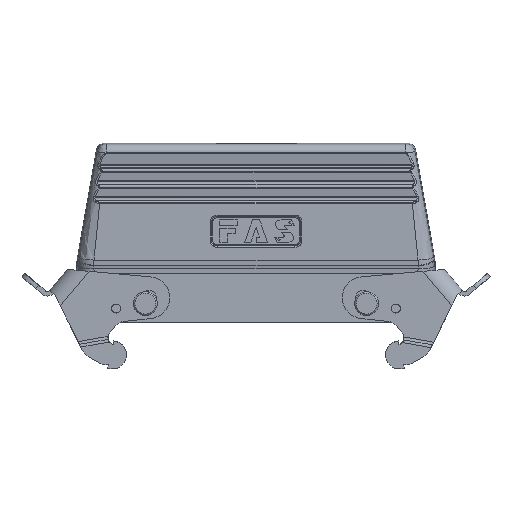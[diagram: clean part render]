
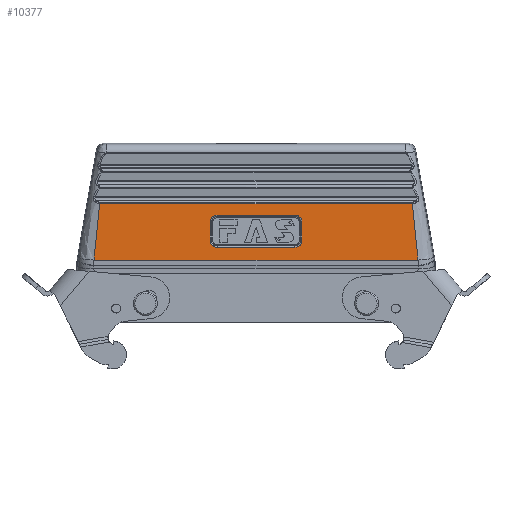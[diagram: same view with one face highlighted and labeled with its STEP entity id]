
A CAD part, front view. The second image highlights one B-rep face of the part: STEP entity #10377.
In plain terms, the highlighted planar face has unit normal (0, -1, 0).
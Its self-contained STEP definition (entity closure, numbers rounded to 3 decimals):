
#687 =( BOUNDED_CURVE ( )  B_SPLINE_CURVE ( 3, ( #8384, #25704, #12794, #12617 ),
 .UNSPECIFIED., .F., .F. ) 
 B_SPLINE_CURVE_WITH_KNOTS ( ( 4, 4 ),
 ( 0., 1. ),
 .UNSPECIFIED. ) 
 CURVE ( )  GEOMETRIC_REPRESENTATION_ITEM ( )  RATIONAL_B_SPLINE_CURVE ( ( 1., 0.805, 0.805, 1. ) ) 
 REPRESENTATION_ITEM ( '' )  );
#788 = DIRECTION ( 'NONE',  ( 0., 0., 1. ) ) ;
#821 = VECTOR ( 'NONE', #6983, 1000. ) ;
#933 = CARTESIAN_POINT ( 'NONE',  ( -54.009, -22., 24.029 ) ) ;
#1009 = EDGE_CURVE ( 'NONE', #20584, #27660, #26065, .T. ) ;
#1347 = CARTESIAN_POINT ( 'NONE',  ( -15.366, -22., 33.5 ) ) ;
#1361 = LINE ( 'NONE', #7970, #21996 ) ;
#2161 = CARTESIAN_POINT ( 'NONE',  ( -14.386, -22., 25.134 ) ) ;
#2243 = LINE ( 'NONE', #19750, #9818 ) ;
#2750 = CARTESIAN_POINT ( 'NONE',  ( 0., -22., 39.758 ) ) ;
#2907 = CARTESIAN_POINT ( 'NONE',  ( 13., -22., 35.866 ) ) ;
#3000 = CARTESIAN_POINT ( 'NONE',  ( 15.366, -22., 27.5 ) ) ;
#3286 = ORIENTED_EDGE ( 'NONE', *, *, #9996, .F. ) ;
#3809 = CARTESIAN_POINT ( 'NONE',  ( 52.708, -22., 36.619 ) ) ;
#4295 = VECTOR ( 'NONE', #10407, 1000. ) ;
#4788 = ORIENTED_EDGE ( 'NONE', *, *, #22662, .F. ) ;
#4971 = VERTEX_POINT ( 'NONE', #11099 ) ;
#5110 = VECTOR ( 'NONE', #7469, 1000. ) ;
#5383 = VERTEX_POINT ( 'NONE', #3000 ) ;
#5724 = ORIENTED_EDGE ( 'NONE', *, *, #9756, .F. ) ;
#5965 = CARTESIAN_POINT ( 'NONE',  ( -240.598, -22., 20.875 ) ) ;
#6951 = ORIENTED_EDGE ( 'NONE', *, *, #21277, .F. ) ;
#6983 = DIRECTION ( 'NONE',  ( 1., 0., 0. ) ) ;
#7175 = LINE ( 'NONE', #16324, #5110 ) ;
#7310 = DIRECTION ( 'NONE',  ( 0., 1., 0. ) ) ;
#7469 = DIRECTION ( 'NONE',  ( 0., 0., -1. ) ) ;
#7970 = CARTESIAN_POINT ( 'NONE',  ( 0., -22., 35.866 ) ) ;
#8029 = CARTESIAN_POINT ( 'NONE',  ( 54.172, -22., 20.875 ) ) ;
#8257 = CARTESIAN_POINT ( 'NONE',  ( 15.366, -22., 33.5 ) ) ;
#8384 = CARTESIAN_POINT ( 'NONE',  ( 13., -22., 25.134 ) ) ;
#8415 = CARTESIAN_POINT ( 'NONE',  ( -13., -22., 25.134 ) ) ;
#9440 = ORIENTED_EDGE ( 'NONE', *, *, #10520, .F. ) ;
#9756 = EDGE_CURVE ( 'NONE', #26555, #28097, #27688, .T. ) ;
#9818 = VECTOR ( 'NONE', #13829, 1000. ) ;
#9996 = EDGE_CURVE ( 'NONE', #14365, #4971, #2243, .T. ) ;
#10291 = CARTESIAN_POINT ( 'NONE',  ( -13., -22., 35.866 ) ) ;
#10377 = ADVANCED_FACE ( 'NONE', ( #21503, #19095 ), #16357, .F. ) ;
#10407 = DIRECTION ( 'NONE',  ( -1., 0., 0. ) ) ;
#10520 = EDGE_CURVE ( 'NONE', #25501, #26555, #18381, .T. ) ;
#10774 = EDGE_CURVE ( 'NONE', #28097, #15433, #21825, .T. ) ;
#10913 = CARTESIAN_POINT ( 'NONE',  ( -13., -22., 25.134 ) ) ;
#11099 = CARTESIAN_POINT ( 'NONE',  ( 13., -22., 25.134 ) ) ;
#11885 = CARTESIAN_POINT ( 'NONE',  ( -54.172, -22., 20.875 ) ) ;
#12062 = CARTESIAN_POINT ( 'NONE',  ( 14.386, -22., 35.866 ) ) ;
#12274 = CARTESIAN_POINT ( 'NONE',  ( 53.748, -22., 27.182 ) ) ;
#12405 = CARTESIAN_POINT ( 'NONE',  ( -14.386, -22., 35.866 ) ) ;
#12554 = CARTESIAN_POINT ( 'NONE',  ( 54.01, -22., 24.029 ) ) ;
#12605 = ORIENTED_EDGE ( 'NONE', *, *, #13584, .F. ) ;
#12617 = CARTESIAN_POINT ( 'NONE',  ( 15.366, -22., 27.5 ) ) ;
#12794 = CARTESIAN_POINT ( 'NONE',  ( 15.366, -22., 26.114 ) ) ;
#12809 = CARTESIAN_POINT ( 'NONE',  ( 52.292, -22., 39.758 ) ) ;
#13240 = EDGE_CURVE ( 'NONE', #15433, #25501, #22492, .T. ) ;
#13339 = LINE ( 'NONE', #27925, #27128 ) ;
#13342 = EDGE_CURVE ( 'NONE', #16709, #14365, #18526, .T. ) ;
#13584 = EDGE_CURVE ( 'NONE', #16359, #15254, #17286, .T. ) ;
#13829 = DIRECTION ( 'NONE',  ( 1., 0., 0. ) ) ;
#14365 = VERTEX_POINT ( 'NONE', #10913 ) ;
#15185 = EDGE_LOOP ( 'NONE', ( #9440, #24791, #18902, #5724 ) ) ;
#15254 = VERTEX_POINT ( 'NONE', #25443 ) ;
#15322 = CARTESIAN_POINT ( 'NONE',  ( -15.366, -22., 27.5 ) ) ;
#15433 = VERTEX_POINT ( 'NONE', #12809 ) ;
#16084 = CARTESIAN_POINT ( 'NONE',  ( 15.366, -22., 34.886 ) ) ;
#16324 = CARTESIAN_POINT ( 'NONE',  ( -15.366, -22., 0. ) ) ;
#16357 = PLANE ( 'NONE',  #26765 ) ;
#16359 = VERTEX_POINT ( 'NONE', #28341 ) ;
#16709 = VERTEX_POINT ( 'NONE', #22061 ) ;
#16945 = DIRECTION ( 'NONE',  ( 0., 0., 1. ) ) ;
#17014 = CARTESIAN_POINT ( 'NONE',  ( -15.366, -22., 34.886 ) ) ;
#17286 =( BOUNDED_CURVE ( )  B_SPLINE_CURVE ( 3, ( #10291, #12405, #17014, #1347 ),
 .UNSPECIFIED., .F., .T. ) 
 B_SPLINE_CURVE_WITH_KNOTS ( ( 4, 4 ),
 ( 0., 1. ),
 .UNSPECIFIED. ) 
 CURVE ( )  GEOMETRIC_REPRESENTATION_ITEM ( )  RATIONAL_B_SPLINE_CURVE ( ( 1., 0.805, 0.805, 1. ) ) 
 REPRESENTATION_ITEM ( '' )  );
#17312 = EDGE_LOOP ( 'NONE', ( #23626, #3286, #27108, #22328, #12605, #4788, #20846, #6951 ) ) ;
#17669 = CARTESIAN_POINT ( 'NONE',  ( 54.172, -22., 20.875 ) ) ;
#17869 = CARTESIAN_POINT ( 'NONE',  ( 13., -22., 35.866 ) ) ;
#18381 = LINE ( 'NONE', #5965, #4295 ) ;
#18526 =( BOUNDED_CURVE ( )  B_SPLINE_CURVE ( 3, ( #15322, #21791, #2161, #8415 ),
 .UNSPECIFIED., .F., .T. ) 
 B_SPLINE_CURVE_WITH_KNOTS ( ( 4, 4 ),
 ( 0., 1. ),
 .UNSPECIFIED. ) 
 CURVE ( )  GEOMETRIC_REPRESENTATION_ITEM ( )  RATIONAL_B_SPLINE_CURVE ( ( 1., 0.805, 0.805, 1. ) ) 
 REPRESENTATION_ITEM ( '' )  );
#18562 = CARTESIAN_POINT ( 'NONE',  ( -54.172, -22., 20.875 ) ) ;
#18718 = CARTESIAN_POINT ( 'NONE',  ( -52.707, -22., 36.619 ) ) ;
#18902 = ORIENTED_EDGE ( 'NONE', *, *, #10774, .F. ) ;
#18906 = CARTESIAN_POINT ( 'NONE',  ( -52.292, -22., 39.758 ) ) ;
#19095 = FACE_OUTER_BOUND ( 'NONE', #15185, .T. ) ;
#19750 = CARTESIAN_POINT ( 'NONE',  ( 0., -22., 25.134 ) ) ;
#20584 = VERTEX_POINT ( 'NONE', #8257 ) ;
#20624 = CARTESIAN_POINT ( 'NONE',  ( 15.366, -22., 33.5 ) ) ;
#20846 = ORIENTED_EDGE ( 'NONE', *, *, #1009, .F. ) ;
#21036 = CARTESIAN_POINT ( 'NONE',  ( -53.748, -22., 27.183 ) ) ;
#21134 = CARTESIAN_POINT ( 'NONE',  ( 53.097, -22., 33.477 ) ) ;
#21277 = EDGE_CURVE ( 'NONE', #5383, #20584, #13339, .T. ) ;
#21503 = FACE_BOUND ( 'NONE', #17312, .T. ) ;
#21588 = EDGE_CURVE ( 'NONE', #15254, #16709, #7175, .T. ) ;
#21791 = CARTESIAN_POINT ( 'NONE',  ( -15.366, -22., 26.114 ) ) ;
#21825 = LINE ( 'NONE', #2750, #821 ) ;
#21996 = VECTOR ( 'NONE', #28183, 1000. ) ;
#22061 = CARTESIAN_POINT ( 'NONE',  ( -15.366, -22., 27.5 ) ) ;
#22328 = ORIENTED_EDGE ( 'NONE', *, *, #21588, .F. ) ;
#22492 = B_SPLINE_CURVE_WITH_KNOTS ( 'NONE', 3,
 ( #25832, #3809, #21134, #12274, #12554, #8029 ),
 .UNSPECIFIED., .F., .F.,
 ( 4, 2, 4 ),
 ( 0., 0.5, 1. ),
 .UNSPECIFIED. ) ;
#22662 = EDGE_CURVE ( 'NONE', #27660, #16359, #1361, .T. ) ;
#23626 = ORIENTED_EDGE ( 'NONE', *, *, #28303, .F. ) ;
#24791 = ORIENTED_EDGE ( 'NONE', *, *, #13240, .F. ) ;
#25443 = CARTESIAN_POINT ( 'NONE',  ( -15.366, -22., 33.5 ) ) ;
#25501 = VERTEX_POINT ( 'NONE', #17669 ) ;
#25704 = CARTESIAN_POINT ( 'NONE',  ( 14.386, -22., 25.134 ) ) ;
#25832 = CARTESIAN_POINT ( 'NONE',  ( 52.292, -22., 39.758 ) ) ;
#26065 =( BOUNDED_CURVE ( )  B_SPLINE_CURVE ( 3, ( #20624, #16084, #12062, #2907 ),
 .UNSPECIFIED., .F., .T. ) 
 B_SPLINE_CURVE_WITH_KNOTS ( ( 4, 4 ),
 ( 0., 1. ),
 .UNSPECIFIED. ) 
 CURVE ( )  GEOMETRIC_REPRESENTATION_ITEM ( )  RATIONAL_B_SPLINE_CURVE ( ( 1., 0.805, 0.805, 1. ) ) 
 REPRESENTATION_ITEM ( '' )  );
#26555 = VERTEX_POINT ( 'NONE', #18562 ) ;
#26575 = CARTESIAN_POINT ( 'NONE',  ( -52.292, -22., 39.758 ) ) ;
#26765 = AXIS2_PLACEMENT_3D ( 'NONE', #27221, #7310, #788 ) ;
#27108 = ORIENTED_EDGE ( 'NONE', *, *, #13342, .F. ) ;
#27128 = VECTOR ( 'NONE', #16945, 1000. ) ;
#27221 = CARTESIAN_POINT ( 'NONE',  ( 0., -22., 0. ) ) ;
#27373 = CARTESIAN_POINT ( 'NONE',  ( -53.096, -22., 33.477 ) ) ;
#27660 = VERTEX_POINT ( 'NONE', #17869 ) ;
#27688 = B_SPLINE_CURVE_WITH_KNOTS ( 'NONE', 3,
 ( #11885, #933, #21036, #27373, #18718, #18906 ),
 .UNSPECIFIED., .F., .F.,
 ( 4, 2, 4 ),
 ( 0., 0.5, 1. ),
 .UNSPECIFIED. ) ;
#27925 = CARTESIAN_POINT ( 'NONE',  ( 15.366, -22., 0. ) ) ;
#28097 = VERTEX_POINT ( 'NONE', #26575 ) ;
#28183 = DIRECTION ( 'NONE',  ( -1., 0., 0. ) ) ;
#28303 = EDGE_CURVE ( 'NONE', #4971, #5383, #687, .T. ) ;
#28341 = CARTESIAN_POINT ( 'NONE',  ( -13., -22., 35.866 ) ) ;
